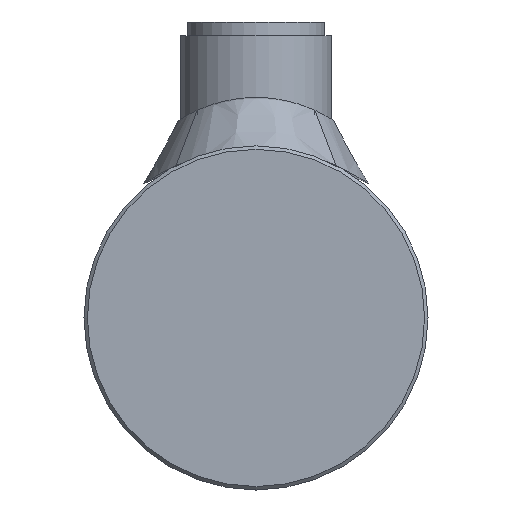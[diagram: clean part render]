
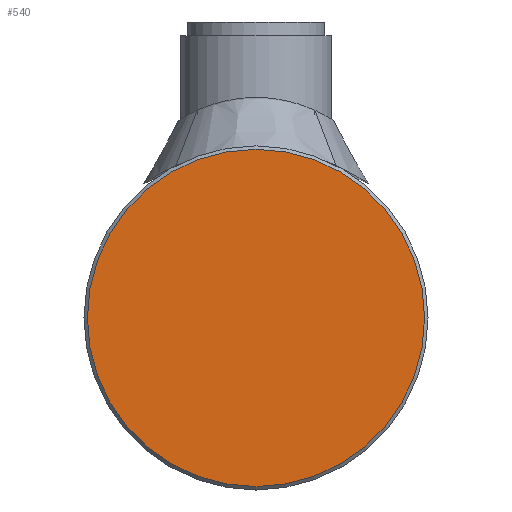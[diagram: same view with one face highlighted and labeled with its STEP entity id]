
A CAD part, left-side view. The second image highlights one B-rep face of the part: STEP entity #540.
In plain terms, the highlighted planar face has unit normal (-1, 0, 0).
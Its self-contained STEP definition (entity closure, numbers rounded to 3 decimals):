
#540 = ADVANCED_FACE( '', ( #1018 ), #1019, .T. );
#1018 = FACE_OUTER_BOUND( '', #1844, .T. );
#1019 = PLANE( '', #1845 );
#1844 = EDGE_LOOP( '', ( #4654 ) );
#1845 = AXIS2_PLACEMENT_3D( '', #4655, #4656, #4657 );
#4654 = ORIENTED_EDGE( '', *, *, #5621, .T. );
#4655 = CARTESIAN_POINT( '', ( -10., 0., 0. ) );
#4656 = DIRECTION( '', ( -1., 0., 0. ) );
#4657 = DIRECTION( '', ( 0., -1., 0. ) );
#5621 = EDGE_CURVE( '', #6120, #6120, #6121, .T. );
#6120 = VERTEX_POINT( '', #6717 );
#6121 = CIRCLE( '', #6718, 24.5 );
#6717 = CARTESIAN_POINT( '', ( -10., -24.5, 0. ) );
#6718 = AXIS2_PLACEMENT_3D( '', #8142, #8143, #8144 );
#8142 = CARTESIAN_POINT( '', ( -10., 0., 0. ) );
#8143 = DIRECTION( '', ( -1., 0., 0. ) );
#8144 = DIRECTION( '', ( 0., -1., 0. ) );
